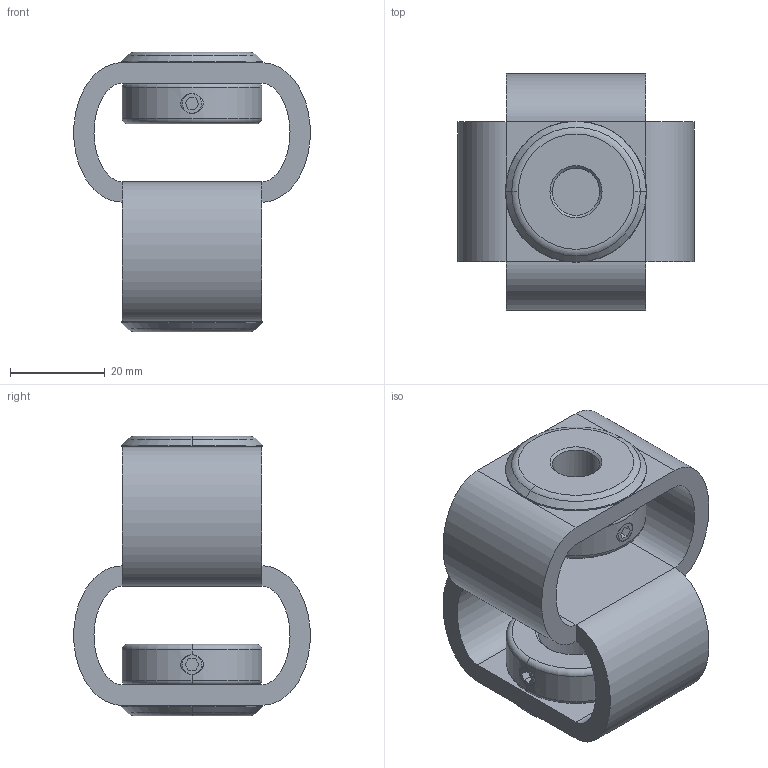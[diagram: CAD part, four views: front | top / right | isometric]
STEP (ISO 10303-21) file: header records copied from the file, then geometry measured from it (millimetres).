
FILE_DESCRIPTION (( 'STEP AP203' ), '1' );
FILE_NAME ('SFC-54-10X16_203.STEP', '2013-06-02T09:59:02', ( 'Z77' ), ( '' ), 'SwSTEP 2.0', 'SolidWorks 2012', '' );
FILE_SCHEMA (( 'CONFIG_CONTROL_DESIGN' ));
Length unit declared in the file: millimetre
Products named in the file (1): SFC-54-10X16_203
Bounding box: 49.92 x 49.92 x 59 mm (x, y, z)
Volume: 37865.9 mm3; surface area: 17485.3 mm2
Topology: 1 solids, 1 shells, 134 faces, 328 edges, 196 vertices
Faces by surface type: plane 46, cone 36, cylinder 28, torus 16, bspline 8
Entity records: 5157 total; most frequent: CARTESIAN_POINT 2001, ORIENTED_EDGE 640, DIRECTION 634, EDGE_CURVE 320, AXIS2_PLACEMENT_3D 237, VERTEX_POINT 196, LINE 160, VECTOR 160
